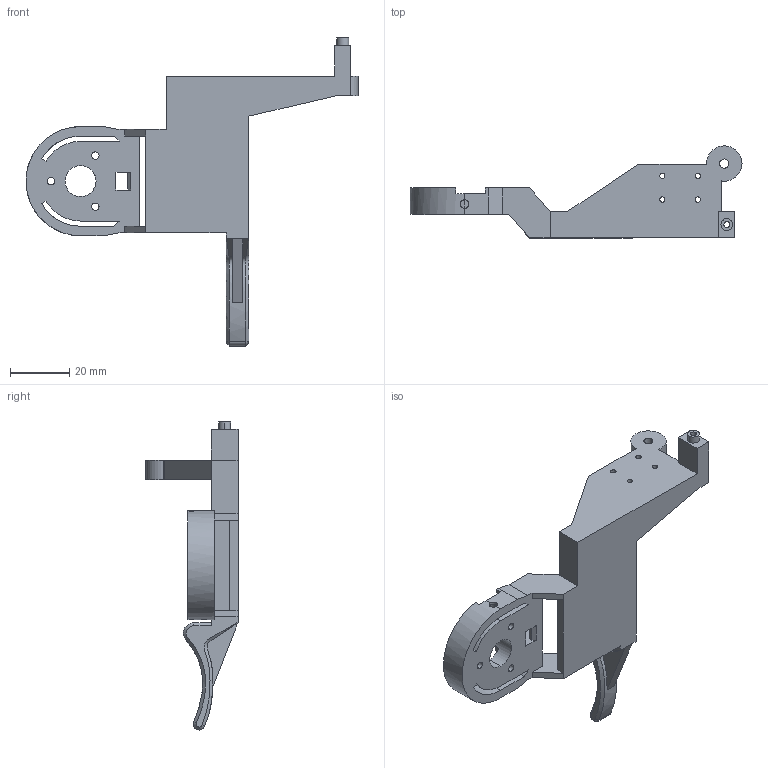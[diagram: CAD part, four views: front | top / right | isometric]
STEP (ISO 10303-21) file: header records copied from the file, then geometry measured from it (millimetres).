
FILE_DESCRIPTION(('Open CASCADE Model'),'2;1');
FILE_NAME('right-fingertip-support.step','2026-11-14T14:31:57',('Author' ),('Open CASCADE'),'Open CASCADE STEP processor 8.0', 'Open CASCADE 8.0','Unknown');
FILE_SCHEMA(('AP242_MANAGED_MODEL_BASED_3D_ENGINEERING_MIM_LF {1 0 10303 442 1 1 4 }' ));
Length unit declared in the file: millimetre
Products named in the file (1): Right Fingertip Support
Bounding box: 112.53 x 31.2 x 104.4 mm (x, y, z)
Volume: 25626.5 mm3; surface area: 15401.3 mm2
Topology: 1 solids, 1 shells, 200 faces, 567 edges, 367 vertices
Faces by surface type: plane 114, cylinder 65, cone 15, bspline 6
Entity records: 19519 total; most frequent: CARTESIAN_POINT 8369, DIRECTION 2050, LINE 1303, VECTOR 1303, ORIENTED_EDGE 1130, PCURVE 1130, DEFINITIONAL_REPRESENTATION 1130, EDGE_CURVE 565
